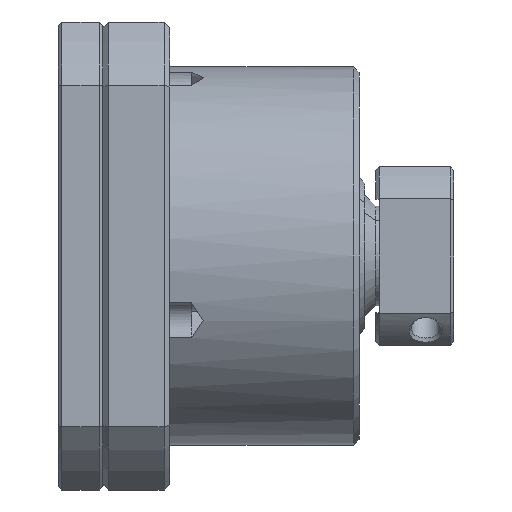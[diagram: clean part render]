
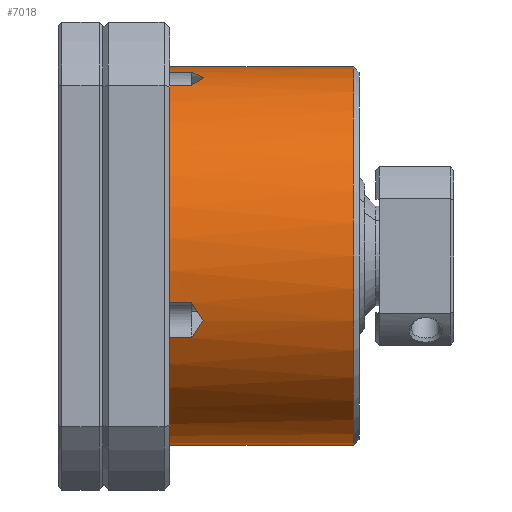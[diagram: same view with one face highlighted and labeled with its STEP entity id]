
A CAD part, front view. The second image highlights one B-rep face of the part: STEP entity #7018.
In plain terms, the highlighted cylindrical face has radius 17 mm (diameter 34 mm), a partial arc.
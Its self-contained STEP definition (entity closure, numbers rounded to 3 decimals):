
#14 = CARTESIAN_POINT ( 'NONE',  ( 8.672, -16.165, -5.291 ) ) ;
#95 = ORIENTED_EDGE ( 'NONE', *, *, #5104, .T. ) ;
#161 = CIRCLE ( 'NONE', #4695, 17. ) ;
#194 = AXIS2_PLACEMENT_3D ( 'NONE', #498, #7192, #2930 ) ;
#282 = VERTEX_POINT ( 'NONE', #7511 ) ;
#333 = DIRECTION ( 'NONE',  ( 0., 0., 1. ) ) ;
#363 = VERTEX_POINT ( 'NONE', #3591 ) ;
#401 = VERTEX_POINT ( 'NONE', #2367 ) ;
#418 = CARTESIAN_POINT ( 'NONE',  ( 8., -4.214, 16.469 ) ) ;
#498 = CARTESIAN_POINT ( 'NONE',  ( -3.974, 0., 0. ) ) ;
#590 = VECTOR ( 'NONE', #5186, 1000. ) ;
#696 = CIRCLE ( 'NONE', #3118, 17. ) ;
#716 = FACE_OUTER_BOUND ( 'NONE', #5229, .T. ) ;
#935 = EDGE_CURVE ( 'NONE', #4138, #401, #5255, .T. ) ;
#1030 = CARTESIAN_POINT ( 'NONE',  ( 8.671, -6.339, 15.784 ) ) ;
#1055 = EDGE_CURVE ( 'NONE', #6729, #282, #1465, .T. ) ;
#1074 = LINE ( 'NONE', #1480, #1472 ) ;
#1201 = EDGE_CURVE ( 'NONE', #2306, #282, #696, .T. ) ;
#1465 = LINE ( 'NONE', #3697, #2864 ) ;
#1472 = VECTOR ( 'NONE', #5735, 1000. ) ;
#1480 = CARTESIAN_POINT ( 'NONE',  ( 4., -15.325, -7.358 ) ) ;
#1487 = CARTESIAN_POINT ( 'NONE',  ( 22.5, 0., 0. ) ) ;
#1595 = B_SPLINE_CURVE_WITH_KNOTS ( 'NONE', 3,
 ( #2360, #1784, #3002, #7261 ),
 .UNSPECIFIED., .F., .F.,
 ( 4, 4 ),
 ( 0.002, 0.004 ),
 .UNSPECIFIED. ) ;
#1628 = ORIENTED_EDGE ( 'NONE', *, *, #5019, .T. ) ;
#1639 = ORIENTED_EDGE ( 'NONE', *, *, #6526, .T. ) ;
#1753 = CARTESIAN_POINT ( 'NONE',  ( 6., 0., 0. ) ) ;
#1784 = CARTESIAN_POINT ( 'NONE',  ( 8.335, -4.755, 16.331 ) ) ;
#1787 = VERTEX_POINT ( 'NONE', #4606 ) ;
#1845 = CARTESIAN_POINT ( 'NONE',  ( 9.006, -15.975, -5.814 ) ) ;
#2078 = DIRECTION ( 'NONE',  ( 0., 0., 1. ) ) ;
#2240 = CARTESIAN_POINT ( 'NONE',  ( 8.335, -6.855, 15.567 ) ) ;
#2283 = CARTESIAN_POINT ( 'NONE',  ( 8., -15.325, -7.358 ) ) ;
#2306 = VERTEX_POINT ( 'NONE', #5250 ) ;
#2330 = DIRECTION ( 'NONE',  ( -1., 0., 0. ) ) ;
#2360 = CARTESIAN_POINT ( 'NONE',  ( 8., -4.214, 16.469 ) ) ;
#2367 = CARTESIAN_POINT ( 'NONE',  ( 8., -16.469, -4.214 ) ) ;
#2560 = AXIS2_PLACEMENT_3D ( 'NONE', #1487, #5743, #2078 ) ;
#2693 = ORIENTED_EDGE ( 'NONE', *, *, #5548, .T. ) ;
#2776 = CARTESIAN_POINT ( 'NONE',  ( 6., -15.325, -7.358 ) ) ;
#2836 = VERTEX_POINT ( 'NONE', #1845 ) ;
#2864 = VECTOR ( 'NONE', #4471, 1000. ) ;
#2930 = DIRECTION ( 'NONE',  ( 0., 0., 1. ) ) ;
#2945 = LINE ( 'NONE', #6556, #7813 ) ;
#3002 = CARTESIAN_POINT ( 'NONE',  ( 8.672, -5.291, 16.165 ) ) ;
#3067 = CARTESIAN_POINT ( 'NONE',  ( 6., -16.469, -4.214 ) ) ;
#3092 = EDGE_CURVE ( 'NONE', #1787, #6314, #2945, .T. ) ;
#3118 = AXIS2_PLACEMENT_3D ( 'NONE', #1753, #2330, #4819 ) ;
#3137 = ORIENTED_EDGE ( 'NONE', *, *, #5084, .T. ) ;
#3340 = B_SPLINE_CURVE_WITH_KNOTS ( 'NONE', 3,
 ( #6716, #7302, #14, #4280 ),
 .UNSPECIFIED., .F., .F.,
 ( 4, 4 ),
 ( 0.002, 0.004 ),
 .UNSPECIFIED. ) ;
#3359 = ORIENTED_EDGE ( 'NONE', *, *, #7834, .T. ) ;
#3384 = CARTESIAN_POINT ( 'NONE',  ( 6., 0., 0. ) ) ;
#3498 = EDGE_CURVE ( 'NONE', #4138, #3708, #6390, .T. ) ;
#3591 = CARTESIAN_POINT ( 'NONE',  ( 8., -7.358, 15.325 ) ) ;
#3624 = DIRECTION ( 'NONE',  ( -1., 0., 0. ) ) ;
#3697 = CARTESIAN_POINT ( 'NONE',  ( -3.974, 0., 17. ) ) ;
#3708 = VERTEX_POINT ( 'NONE', #4269 ) ;
#3755 = LINE ( 'NONE', #6667, #5361 ) ;
#3865 = CARTESIAN_POINT ( 'NONE',  ( 4., -16.469, -4.214 ) ) ;
#3979 = DIRECTION ( 'NONE',  ( -1., 0., 0. ) ) ;
#4006 = DIRECTION ( 'NONE',  ( 0., 0., 1. ) ) ;
#4134 = DIRECTION ( 'NONE',  ( -1., 0., 0. ) ) ;
#4138 = VERTEX_POINT ( 'NONE', #3067 ) ;
#4269 = CARTESIAN_POINT ( 'NONE',  ( 6., -7.358, 15.325 ) ) ;
#4280 = CARTESIAN_POINT ( 'NONE',  ( 9.006, -15.975, -5.814 ) ) ;
#4366 = EDGE_CURVE ( 'NONE', #1787, #6729, #6448, .T. ) ;
#4471 = DIRECTION ( 'NONE',  ( -1., 0., 0. ) ) ;
#4590 = B_SPLINE_CURVE_WITH_KNOTS ( 'NONE', 3,
 ( #5277, #1030, #2240, #6516 ),
 .UNSPECIFIED., .F., .F.,
 ( 4, 4 ),
 ( 0., 0.002 ),
 .UNSPECIFIED. ) ;
#4606 = CARTESIAN_POINT ( 'NONE',  ( 22.5, 0., -17. ) ) ;
#4695 = AXIS2_PLACEMENT_3D ( 'NONE', #7615, #3979, #333 ) ;
#4703 = CARTESIAN_POINT ( 'NONE',  ( 9.006, -15.975, -5.814 ) ) ;
#4819 = DIRECTION ( 'NONE',  ( 0., 0., 1. ) ) ;
#4938 = ORIENTED_EDGE ( 'NONE', *, *, #1055, .T. ) ;
#4942 = EDGE_CURVE ( 'NONE', #6314, #4970, #161, .T. ) ;
#4963 = ORIENTED_EDGE ( 'NONE', *, *, #935, .T. ) ;
#4970 = VERTEX_POINT ( 'NONE', #2776 ) ;
#4979 = ORIENTED_EDGE ( 'NONE', *, *, #3498, .F. ) ;
#5019 = EDGE_CURVE ( 'NONE', #6006, #363, #4590, .T. ) ;
#5084 = EDGE_CURVE ( 'NONE', #2836, #5248, #5199, .T. ) ;
#5104 = EDGE_CURVE ( 'NONE', #2306, #6360, #5687, .T. ) ;
#5186 = DIRECTION ( 'NONE',  ( 1., 0., 0. ) ) ;
#5199 = B_SPLINE_CURVE_WITH_KNOTS ( 'NONE', 3,
 ( #4703, #5317, #5947, #2283 ),
 .UNSPECIFIED., .F., .F.,
 ( 4, 4 ),
 ( 0., 0.002 ),
 .UNSPECIFIED. ) ;
#5229 = EDGE_LOOP ( 'NONE', ( #7579, #7224, #4938, #6072, #95, #2693, #1628, #1639, #4979, #4963, #3359, #3137, #5711, #5589 ) ) ;
#5248 = VERTEX_POINT ( 'NONE', #6730 ) ;
#5250 = CARTESIAN_POINT ( 'NONE',  ( 6., -4.214, 16.469 ) ) ;
#5255 = LINE ( 'NONE', #3865, #590 ) ;
#5277 = CARTESIAN_POINT ( 'NONE',  ( 9.006, -5.814, 15.975 ) ) ;
#5317 = CARTESIAN_POINT ( 'NONE',  ( 8.671, -15.784, -6.339 ) ) ;
#5361 = VECTOR ( 'NONE', #3624, 1000. ) ;
#5548 = EDGE_CURVE ( 'NONE', #6360, #6006, #1595, .T. ) ;
#5589 = ORIENTED_EDGE ( 'NONE', *, *, #4942, .F. ) ;
#5687 = LINE ( 'NONE', #7159, #6736 ) ;
#5711 = ORIENTED_EDGE ( 'NONE', *, *, #7505, .T. ) ;
#5735 = DIRECTION ( 'NONE',  ( -1., 0., 0. ) ) ;
#5743 = DIRECTION ( 'NONE',  ( -1., 0., 0. ) ) ;
#5857 = CARTESIAN_POINT ( 'NONE',  ( 6., 0., -17. ) ) ;
#5947 = CARTESIAN_POINT ( 'NONE',  ( 8.335, -15.567, -6.855 ) ) ;
#6006 = VERTEX_POINT ( 'NONE', #6166 ) ;
#6072 = ORIENTED_EDGE ( 'NONE', *, *, #1201, .F. ) ;
#6166 = CARTESIAN_POINT ( 'NONE',  ( 9.006, -5.814, 15.975 ) ) ;
#6314 = VERTEX_POINT ( 'NONE', #5857 ) ;
#6360 = VERTEX_POINT ( 'NONE', #418 ) ;
#6390 = CIRCLE ( 'NONE', #6837, 17. ) ;
#6448 = CIRCLE ( 'NONE', #2560, 17. ) ;
#6455 = DIRECTION ( 'NONE',  ( 1., 0., 0. ) ) ;
#6516 = CARTESIAN_POINT ( 'NONE',  ( 8., -7.358, 15.325 ) ) ;
#6526 = EDGE_CURVE ( 'NONE', #363, #3708, #3755, .T. ) ;
#6556 = CARTESIAN_POINT ( 'NONE',  ( -3.974, 0., -17. ) ) ;
#6667 = CARTESIAN_POINT ( 'NONE',  ( 4., -7.358, 15.325 ) ) ;
#6716 = CARTESIAN_POINT ( 'NONE',  ( 8., -16.469, -4.214 ) ) ;
#6729 = VERTEX_POINT ( 'NONE', #7507 ) ;
#6730 = CARTESIAN_POINT ( 'NONE',  ( 8., -15.325, -7.358 ) ) ;
#6736 = VECTOR ( 'NONE', #6455, 1000. ) ;
#6812 = CYLINDRICAL_SURFACE ( 'NONE', #194, 17. ) ;
#6837 = AXIS2_PLACEMENT_3D ( 'NONE', #3384, #7655, #4006 ) ;
#7018 = ADVANCED_FACE ( 'NONE', ( #716 ), #6812, .T. ) ;
#7159 = CARTESIAN_POINT ( 'NONE',  ( 4., -4.214, 16.469 ) ) ;
#7192 = DIRECTION ( 'NONE',  ( -1., 0., 0. ) ) ;
#7224 = ORIENTED_EDGE ( 'NONE', *, *, #4366, .T. ) ;
#7261 = CARTESIAN_POINT ( 'NONE',  ( 9.006, -5.814, 15.975 ) ) ;
#7302 = CARTESIAN_POINT ( 'NONE',  ( 8.335, -16.331, -4.755 ) ) ;
#7505 = EDGE_CURVE ( 'NONE', #5248, #4970, #1074, .T. ) ;
#7507 = CARTESIAN_POINT ( 'NONE',  ( 22.5, 0., 17. ) ) ;
#7511 = CARTESIAN_POINT ( 'NONE',  ( 6., 0., 17. ) ) ;
#7579 = ORIENTED_EDGE ( 'NONE', *, *, #3092, .F. ) ;
#7615 = CARTESIAN_POINT ( 'NONE',  ( 6., 0., 0. ) ) ;
#7655 = DIRECTION ( 'NONE',  ( -1., 0., 0. ) ) ;
#7813 = VECTOR ( 'NONE', #4134, 1000. ) ;
#7834 = EDGE_CURVE ( 'NONE', #401, #2836, #3340, .T. ) ;
